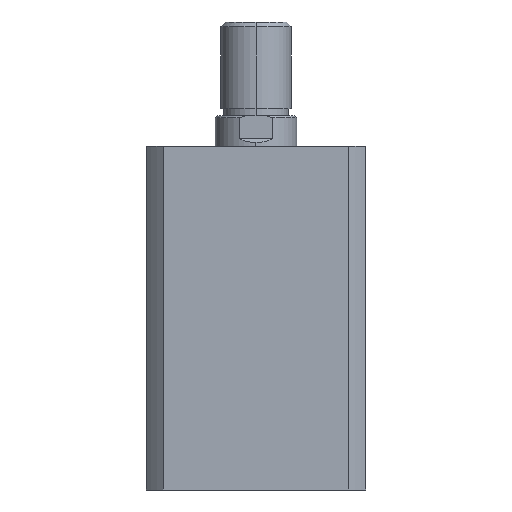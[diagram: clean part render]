
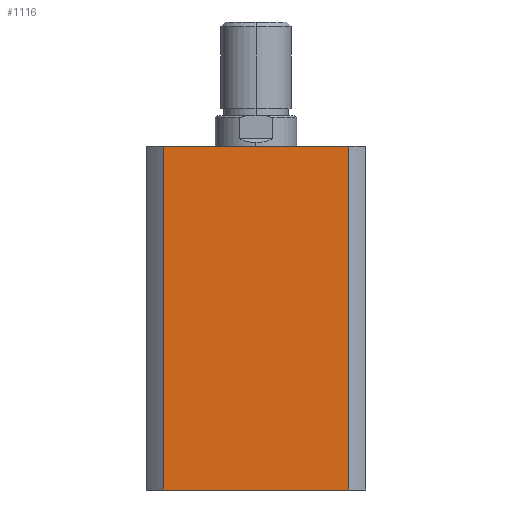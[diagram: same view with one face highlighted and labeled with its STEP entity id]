
A CAD part, left-side view. The second image highlights one B-rep face of the part: STEP entity #1116.
In plain terms, the highlighted planar face has unit normal (-1, 0, 0).
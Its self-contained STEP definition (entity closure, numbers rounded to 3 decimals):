
#351 = DIRECTION ( 'NONE',  ( 0., 0., -1. ) ) ;
#354 = CARTESIAN_POINT ( 'NONE',  ( -47., 39.664, 147. ) ) ;
#356 = CARTESIAN_POINT ( 'NONE',  ( -47., 0., 0. ) ) ;
#361 = DIRECTION ( 'NONE',  ( 0., -1., 0. ) ) ;
#362 = CARTESIAN_POINT ( 'NONE',  ( -47., -39.664, 147. ) ) ;
#364 = DIRECTION ( 'NONE',  ( 0., 0., -1. ) ) ;
#861 = LINE ( 'NONE', #3623, #863 ) ;
#863 = VECTOR ( 'NONE', #3622, 1000. ) ;
#1116 = ADVANCED_FACE ( 'NONE', ( #4513 ), #4118, .F. ) ;
#1424 = AXIS2_PLACEMENT_3D ( 'NONE', #4113, #4121, #4122 ) ;
#1934 = EDGE_LOOP ( 'NONE', ( #4906, #4907, #4908, #4909 ) ) ;
#2515 = EDGE_CURVE ( 'NONE', #3134, #5095, #4601, .T. ) ;
#2516 = EDGE_CURVE ( 'NONE', #5095, #5097, #4599, .T. ) ;
#2517 = EDGE_CURVE ( 'NONE', #3133, #5097, #4604, .T. ) ;
#2736 = EDGE_CURVE ( 'NONE', #3134, #3133, #861, .T. ) ;
#3133 = VERTEX_POINT ( 'NONE', #3781 ) ;
#3134 = VERTEX_POINT ( 'NONE', #3782 ) ;
#3622 = DIRECTION ( 'NONE',  ( 0., -1., 0. ) ) ;
#3623 = CARTESIAN_POINT ( 'NONE',  ( -47., 0., 147. ) ) ;
#3781 = CARTESIAN_POINT ( 'NONE',  ( -47., -39.664, 147. ) ) ;
#3782 = CARTESIAN_POINT ( 'NONE',  ( -47., 39.664, 147. ) ) ;
#3789 = CARTESIAN_POINT ( 'NONE',  ( -47., 39.664, 0. ) ) ;
#3797 = CARTESIAN_POINT ( 'NONE',  ( -47., -39.664, 0. ) ) ;
#4113 = CARTESIAN_POINT ( 'NONE',  ( -47., 0., 147. ) ) ;
#4118 = PLANE ( 'NONE',  #1424 ) ;
#4121 = DIRECTION ( 'NONE',  ( 1., 0., 0. ) ) ;
#4122 = DIRECTION ( 'NONE',  ( 0., 0., -1. ) ) ;
#4513 = FACE_OUTER_BOUND ( 'NONE', #1934, .T. ) ;
#4599 = LINE ( 'NONE', #356, #4605 ) ;
#4601 = LINE ( 'NONE', #354, #4603 ) ;
#4603 = VECTOR ( 'NONE', #351, 1000. ) ;
#4604 = LINE ( 'NONE', #362, #4607 ) ;
#4605 = VECTOR ( 'NONE', #361, 1000. ) ;
#4607 = VECTOR ( 'NONE', #364, 1000. ) ;
#4906 = ORIENTED_EDGE ( 'NONE', *, *, #2516, .T. ) ;
#4907 = ORIENTED_EDGE ( 'NONE', *, *, #2517, .F. ) ;
#4908 = ORIENTED_EDGE ( 'NONE', *, *, #2736, .F. ) ;
#4909 = ORIENTED_EDGE ( 'NONE', *, *, #2515, .T. ) ;
#5095 = VERTEX_POINT ( 'NONE', #3789 ) ;
#5097 = VERTEX_POINT ( 'NONE', #3797 ) ;
